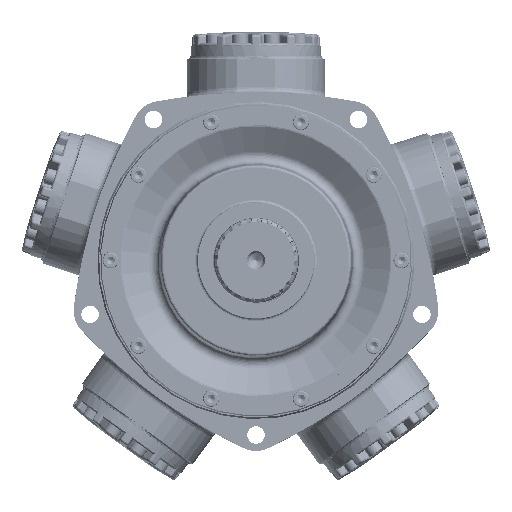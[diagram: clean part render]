
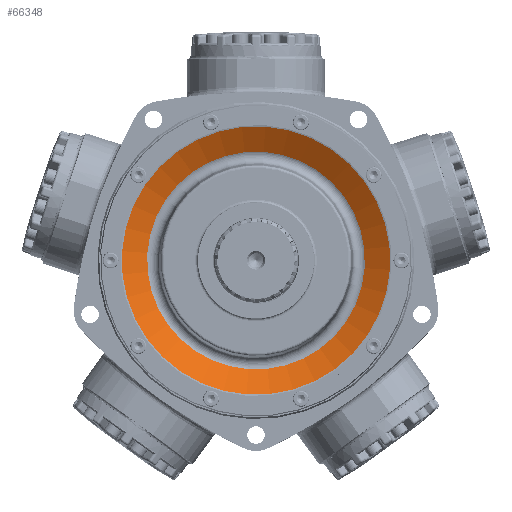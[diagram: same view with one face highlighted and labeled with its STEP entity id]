
A CAD part, top view. The second image highlights one B-rep face of the part: STEP entity #66348.
In plain terms, the highlighted conical face has half-angle 60 degrees and reference radius 146.366 mm.
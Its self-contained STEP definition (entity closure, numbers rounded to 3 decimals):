
#10903=CONICAL_SURFACE('',#71761,146.366,1.047);
#12580=FACE_BOUND('',#20012,.T.);
#15250=FACE_OUTER_BOUND('',#20011,.T.);
#20011=EDGE_LOOP('',(#49806));
#20012=EDGE_LOOP('',(#49807));
#24359=CIRCLE('',#71760,161.188);
#24360=CIRCLE('',#71762,130.807);
#28899=VERTEX_POINT('',#117710);
#28900=VERTEX_POINT('',#117713);
#36363=EDGE_CURVE('',#28899,#28899,#24359,.T.);
#36364=EDGE_CURVE('',#28900,#28900,#24360,.T.);
#49806=ORIENTED_EDGE('',*,*,#36364,.T.);
#49807=ORIENTED_EDGE('',*,*,#36363,.F.);
#66348=ADVANCED_FACE('',(#15250,#12580),#10903,.F.);
#71760=AXIS2_PLACEMENT_3D('',#117711,#83142,#83143);
#71761=AXIS2_PLACEMENT_3D('',#117712,#83144,#83145);
#71762=AXIS2_PLACEMENT_3D('',#117714,#83146,#83147);
#83142=DIRECTION('center_axis',(0.,0.,
-1.));
#83143=DIRECTION('ref_axis',(0.588,-0.809,0.));
#83144=DIRECTION('center_axis',(0.,0.,
1.));
#83145=DIRECTION('ref_axis',(-0.588,0.809,0.));
#83146=DIRECTION('center_axis',(0.,0.,
-1.));
#83147=DIRECTION('ref_axis',(-0.588,0.809,0.));
#117710=CARTESIAN_POINT('',(-94.744,130.404,68.726));
#117711=CARTESIAN_POINT('Origin',(0.,0.,
68.726));
#117712=CARTESIAN_POINT('Origin',(0.,0.,
60.169));
#117713=CARTESIAN_POINT('',(-76.887,105.825,51.186));
#117714=CARTESIAN_POINT('Origin',(0.,0.,
51.186));
